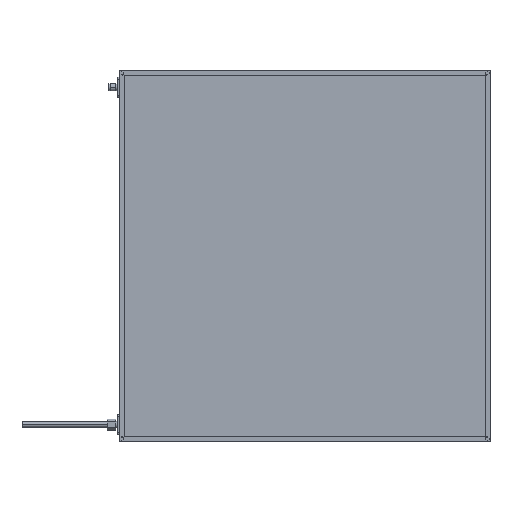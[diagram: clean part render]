
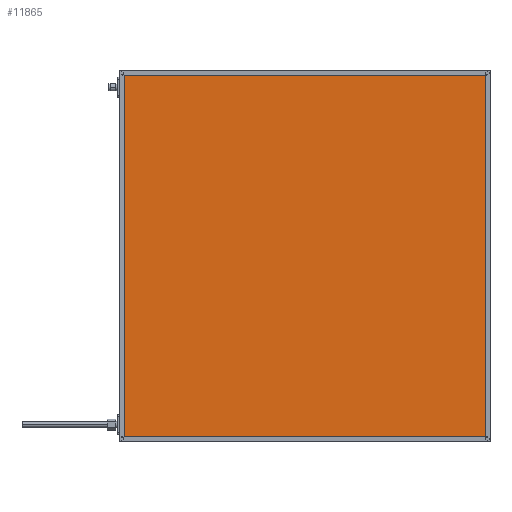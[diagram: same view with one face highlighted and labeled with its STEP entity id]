
A CAD part, top view. The second image highlights one B-rep face of the part: STEP entity #11865.
In plain terms, the highlighted planar face has unit normal (0, 0, 1).
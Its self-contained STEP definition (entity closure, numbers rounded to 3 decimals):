
#284 = CARTESIAN_POINT ( 'NONE',  ( 0., 596., 41.85 ) ) ;
#1211 = VERTEX_POINT ( 'NONE', #10850 ) ;
#1237 = EDGE_CURVE ( 'NONE', #2885, #1211, #9305, .T. ) ;
#2101 = DIRECTION ( 'NONE',  ( 1., 0., 0. ) ) ;
#2233 = CARTESIAN_POINT ( 'NONE',  ( 4., 4., 41.85 ) ) ;
#2308 = VECTOR ( 'NONE', #10438, 1000. ) ;
#2418 = DIRECTION ( 'NONE',  ( 0., -1., 0. ) ) ;
#2779 = VERTEX_POINT ( 'NONE', #17105 ) ;
#2784 = ORIENTED_EDGE ( 'NONE', *, *, #2786, .T. ) ;
#2786 = EDGE_CURVE ( 'NONE', #2779, #2885, #16016, .T. ) ;
#2885 = VERTEX_POINT ( 'NONE', #2233 ) ;
#3253 = ORIENTED_EDGE ( 'NONE', *, *, #12190, .T. ) ;
#3679 = DIRECTION ( 'NONE',  ( 0., 0., -1. ) ) ;
#3948 = PLANE ( 'NONE',  #14426 ) ;
#5176 = VECTOR ( 'NONE', #2418, 1000. ) ;
#6332 = LINE ( 'NONE', #10618, #2308 ) ;
#6510 = FACE_OUTER_BOUND ( 'NONE', #17683, .T. ) ;
#7052 = ORIENTED_EDGE ( 'NONE', *, *, #16172, .T. ) ;
#8057 = DIRECTION ( 'NONE',  ( -1., 0., 0. ) ) ;
#9296 = CARTESIAN_POINT ( 'NONE',  ( 596., 596., 41.85 ) ) ;
#9305 = LINE ( 'NONE', #13487, #17348 ) ;
#9356 = CARTESIAN_POINT ( 'NONE',  ( 4., 0., 41.85 ) ) ;
#10438 = DIRECTION ( 'NONE',  ( 0., 1., 0. ) ) ;
#10618 = CARTESIAN_POINT ( 'NONE',  ( 596., 0., 41.85 ) ) ;
#10850 = CARTESIAN_POINT ( 'NONE',  ( 596., 4., 41.85 ) ) ;
#11865 = ADVANCED_FACE ( 'NONE', ( #6510 ), #3948, .F. ) ;
#12063 = CARTESIAN_POINT ( 'NONE',  ( 0., 0., 41.85 ) ) ;
#12190 = EDGE_CURVE ( 'NONE', #14635, #2779, #14132, .T. ) ;
#12771 = DIRECTION ( 'NONE',  ( -1., 0., 0. ) ) ;
#12970 = ORIENTED_EDGE ( 'NONE', *, *, #1237, .T. ) ;
#13487 = CARTESIAN_POINT ( 'NONE',  ( 0., 4., 41.85 ) ) ;
#14132 = LINE ( 'NONE', #284, #17072 ) ;
#14426 = AXIS2_PLACEMENT_3D ( 'NONE', #12063, #3679, #8057 ) ;
#14635 = VERTEX_POINT ( 'NONE', #9296 ) ;
#16016 = LINE ( 'NONE', #9356, #5176 ) ;
#16172 = EDGE_CURVE ( 'NONE', #1211, #14635, #6332, .T. ) ;
#17072 = VECTOR ( 'NONE', #12771, 1000. ) ;
#17105 = CARTESIAN_POINT ( 'NONE',  ( 4., 596., 41.85 ) ) ;
#17348 = VECTOR ( 'NONE', #2101, 1000. ) ;
#17683 = EDGE_LOOP ( 'NONE', ( #7052, #3253, #2784, #12970 ) ) ;
